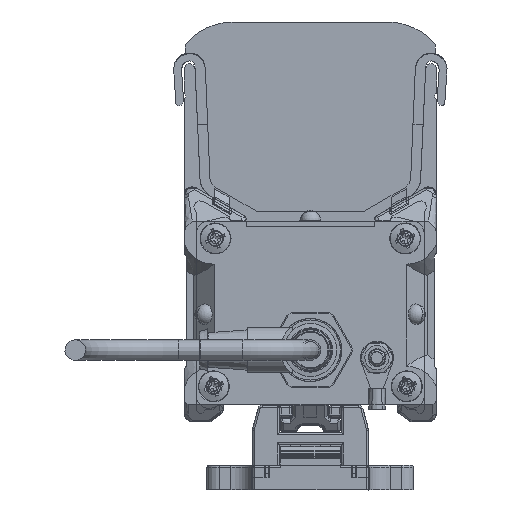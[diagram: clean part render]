
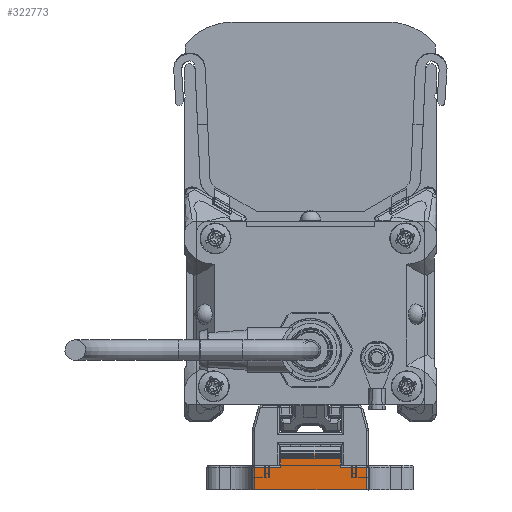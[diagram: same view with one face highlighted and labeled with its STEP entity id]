
A CAD part, left-side view. The second image highlights one B-rep face of the part: STEP entity #322773.
In plain terms, the highlighted planar face has unit normal (-1, 0, 0) as drawn and (1, 0, 0) by its records, which use the part's own axes.
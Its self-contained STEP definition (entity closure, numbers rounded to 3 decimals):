
#118201=ORIENTED_EDGE('',*,*,#166873,.F.);
#118202=ORIENTED_EDGE('',*,*,#166874,.T.);
#118203=ORIENTED_EDGE('',*,*,#166875,.F.);
#118204=ORIENTED_EDGE('',*,*,#166871,.T.);
#118205=ORIENTED_EDGE('',*,*,#166845,.F.);
#118206=ORIENTED_EDGE('',*,*,#166876,.T.);
#118207=ORIENTED_EDGE('',*,*,#166877,.F.);
#118208=ORIENTED_EDGE('',*,*,#166878,.T.);
#143167=VECTOR('',#193423,1.);
#143185=VECTOR('',#193457,1.);
#143186=VECTOR('',#193462,1.);
#143187=VECTOR('',#193463,1.);
#143188=VECTOR('',#193464,1.);
#143189=VECTOR('',#193465,1.);
#143190=VECTOR('',#193466,1.);
#143191=VECTOR('',#193467,1.);
#150614=LINE('',#221631,#143167);
#150632=LINE('',#221722,#143185);
#150633=LINE('',#221727,#143186);
#150634=LINE('',#221729,#143187);
#150635=LINE('',#221730,#143188);
#150636=LINE('',#221732,#143189);
#150637=LINE('',#221734,#143190);
#150638=LINE('',#221735,#143191);
#158190=VERTEX_POINT('',#221628);
#158191=VERTEX_POINT('',#221630);
#158214=VERTEX_POINT('',#221721);
#158215=VERTEX_POINT('',#221725);
#158216=VERTEX_POINT('',#221726);
#158217=VERTEX_POINT('',#221728);
#158218=VERTEX_POINT('',#221731);
#158219=VERTEX_POINT('',#221733);
#166845=EDGE_CURVE('',#158190,#158191,#150614,.T.);
#166871=EDGE_CURVE('',#158214,#158191,#150632,.T.);
#166873=EDGE_CURVE('',#158215,#158216,#150633,.T.);
#166874=EDGE_CURVE('',#158215,#158217,#150634,.T.);
#166875=EDGE_CURVE('',#158214,#158217,#150635,.T.);
#166876=EDGE_CURVE('',#158190,#158218,#150636,.T.);
#166877=EDGE_CURVE('',#158219,#158218,#150637,.T.);
#166878=EDGE_CURVE('',#158219,#158216,#150638,.T.);
#179581=EDGE_LOOP('',(#118201,#118202,#118203,#118204,#118205,#118206,#118207,
#118208));
#185667=FACE_BOUND('',#179581,.T.);
#193423=DIRECTION('',(0.,-26.996,0.));
#193457=DIRECTION('',(0.,0.,-5.5));
#193460=DIRECTION('',(1.,0.,0.));
#193461=DIRECTION('',(0.,-1.,0.));
#193462=DIRECTION('',(0.,14.4,0.));
#193463=DIRECTION('',(0.,0.,-3.1));
#193464=DIRECTION('',(0.,6.298,0.));
#193465=DIRECTION('',(0.,0.,5.5));
#193466=DIRECTION('',(0.,6.298,0.));
#193467=DIRECTION('',(0.,0.,3.1));
#221628=CARTESIAN_POINT('',(96.175,75.88,-3.));
#221630=CARTESIAN_POINT('',(96.175,48.884,-3.));
#221631=CARTESIAN_POINT('',(96.175,75.88,-3.));
#221721=CARTESIAN_POINT('',(96.175,48.884,2.5));
#221722=CARTESIAN_POINT('',(96.175,48.884,2.5));
#221724=CARTESIAN_POINT('',(96.175,55.182,5.6));
#221725=CARTESIAN_POINT('',(96.175,55.182,5.6));
#221726=CARTESIAN_POINT('',(96.175,69.582,5.6));
#221727=CARTESIAN_POINT('',(96.175,55.182,5.6));
#221728=CARTESIAN_POINT('',(96.175,55.182,2.5));
#221729=CARTESIAN_POINT('',(96.175,55.182,5.6));
#221730=CARTESIAN_POINT('',(96.175,48.884,2.5));
#221731=CARTESIAN_POINT('',(96.175,75.88,2.5));
#221732=CARTESIAN_POINT('',(96.175,75.88,-3.));
#221733=CARTESIAN_POINT('',(96.175,69.582,2.5));
#221734=CARTESIAN_POINT('',(96.175,69.582,2.5));
#221735=CARTESIAN_POINT('',(96.175,69.582,2.5));
#311076=AXIS2_PLACEMENT_3D('',#221724,#193460,#193461);
#320248=PLANE('',#311076);
#322773=ADVANCED_FACE('',(#185667),#320248,.T.);
